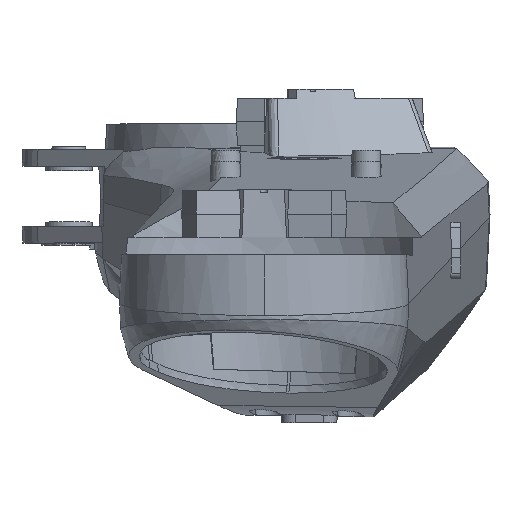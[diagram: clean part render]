
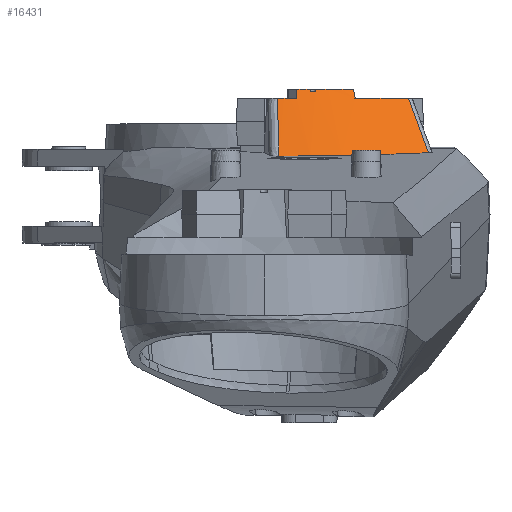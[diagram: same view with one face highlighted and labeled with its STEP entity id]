
A CAD part, top view. The second image highlights one B-rep face of the part: STEP entity #16431.
In plain terms, the highlighted conical face has half-angle 30 degrees and reference radius 286 mm.
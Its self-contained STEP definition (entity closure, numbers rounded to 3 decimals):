
#1574 = B_SPLINE_CURVE_WITH_KNOTS ( 'NONE', 3,
 ( #38031, #38022, #38021, #38033 ),
 .UNSPECIFIED., .F., .F.,
 ( 4, 4 ),
 ( 0.077, 0.08 ),
 .UNSPECIFIED. ) ;
#1595 = B_SPLINE_CURVE_WITH_KNOTS ( 'NONE', 3,
 ( #36675, #36679, #36684, #36685, #36686, #36687, #36688 ),
 .UNSPECIFIED., .F., .F.,
 ( 4, 3, 4 ),
 ( 0., 0.02, 0.071 ),
 .UNSPECIFIED. ) ;
#1772 = B_SPLINE_CURVE_WITH_KNOTS ( 'NONE', 3,
 ( #22125, #22118, #22107, #22127 ),
 .UNSPECIFIED., .F., .F.,
 ( 4, 4 ),
 ( 0.086, 0.097 ),
 .UNSPECIFIED. ) ;
#1823 =( BOUNDED_CURVE ( )  B_SPLINE_CURVE ( 3, ( #37212, #37197, #37205, #37216 ),
 .UNSPECIFIED., .F., .F. ) 
 B_SPLINE_CURVE_WITH_KNOTS ( ( 4, 4 ),
 ( 5.68, 6.232 ),
 .UNSPECIFIED. ) 
 CURVE ( )  GEOMETRIC_REPRESENTATION_ITEM ( )  RATIONAL_B_SPLINE_CURVE ( ( 1., 0.975, 0.975, 1. ) ) 
 REPRESENTATION_ITEM ( '' )  );
#1836 = B_SPLINE_CURVE_WITH_KNOTS ( 'NONE', 3,
 ( #37781, #37763, #37761, #37785 ),
 .UNSPECIFIED., .F., .F.,
 ( 4, 4 ),
 ( 0.08, 0.084 ),
 .UNSPECIFIED. ) ;
#1884 = B_SPLINE_CURVE_WITH_KNOTS ( 'NONE', 3,
 ( #22105, #22122, #22145, #22147, #22149, #22151, #22153, #22155, #22157, #22159 ),
 .UNSPECIFIED., .F., .F.,
 ( 4, 3, 3, 4 ),
 ( 0., 0.02, 0.06, 0.067 ),
 .UNSPECIFIED. ) ;
#5323 = CARTESIAN_POINT ( 'NONE',  ( 320., -80., 780. ) ) ;
#5324 = DIRECTION ( 'NONE',  ( 0., 1., 0. ) ) ;
#5325 = DIRECTION ( 'NONE',  ( -1., 0., 0. ) ) ;
#5672 = CARTESIAN_POINT ( 'NONE',  ( 320., -83., 780. ) ) ;
#5673 = DIRECTION ( 'NONE',  ( 0., -1., 0. ) ) ;
#5674 = DIRECTION ( 'NONE',  ( 1., 0., 0. ) ) ;
#5967 = DIRECTION ( 'NONE',  ( 1., 0., 0. ) ) ;
#5982 = DIRECTION ( 'NONE',  ( 0., -1., 0. ) ) ;
#6172 = CARTESIAN_POINT ( 'NONE',  ( 320., -90., 780. ) ) ;
#7281 = CIRCLE ( 'NONE', #14231, 280.226 ) ;
#7495 = CIRCLE ( 'NONE', #14257, 286. ) ;
#7522 = CIRCLE ( 'NONE', #14259, 286. ) ;
#7534 = LINE ( 'NONE', #37287, #7535 ) ;
#7535 = VECTOR ( 'NONE', #37288, 1000. ) ;
#8406 = EDGE_LOOP ( 'NONE', ( #29775, #29763, #29756, #29760, #29758, #29765, #29764, #29766, #29762, #30163, #30162, #30164 ) ) ;
#9360 = FACE_OUTER_BOUND ( 'NONE', #8406, .T. ) ;
#9367 = CONICAL_SURFACE ( 'NONE', #13885, 286., 0.524 ) ;
#10115 = CIRCLE ( 'NONE', #14197, 280.226 ) ;
#10146 = CIRCLE ( 'NONE', #14206, 281.959 ) ;
#13885 = AXIS2_PLACEMENT_3D ( 'NONE', #6172, #5982, #5967 ) ;
#14197 = AXIS2_PLACEMENT_3D ( 'NONE', #5323, #5324, #5325 ) ;
#14206 = AXIS2_PLACEMENT_3D ( 'NONE', #5672, #5673, #5674 ) ;
#14231 = AXIS2_PLACEMENT_3D ( 'NONE', #21748, #21750, #21752 ) ;
#14257 = AXIS2_PLACEMENT_3D ( 'NONE', #36871, #36873, #36875 ) ;
#14259 = AXIS2_PLACEMENT_3D ( 'NONE', #37015, #37017, #37019 ) ;
#16431 = ADVANCED_FACE ( 'NONE', ( #9360 ), #9367, .T. ) ;
#17231 = CARTESIAN_POINT ( 'NONE',  ( 335.688, -151.771, 1101.281 ) ) ;
#17296 = CARTESIAN_POINT ( 'NONE',  ( 474.174, -90., 1020.887 ) ) ;
#17298 = CARTESIAN_POINT ( 'NONE',  ( 354.605, -80., 1058.082 ) ) ;
#17299 = CARTESIAN_POINT ( 'NONE',  ( 369.513, -80., 1055.818 ) ) ;
#17302 = CARTESIAN_POINT ( 'NONE',  ( 417.3, -90., 1048.94 ) ) ;
#17306 = CARTESIAN_POINT ( 'NONE',  ( 354.857, -90., 1063.868 ) ) ;
#17308 = CARTESIAN_POINT ( 'NONE',  ( 415.335, -80., 1043.511 ) ) ;
#17351 = CARTESIAN_POINT ( 'NONE',  ( 374.513, -83., 1056.639 ) ) ;
#17437 = CARTESIAN_POINT ( 'NONE',  ( 495.354, -148.077, 1047.116 ) ) ;
#18176 = EDGE_CURVE ( 'NONE', #28518, #28307, #1823, .T. ) ;
#18210 = EDGE_CURVE ( 'NONE', #28376, #28377, #10115, .T. ) ;
#18249 = EDGE_CURVE ( 'NONE', #28429, #28895, #10146, .T. ) ;
#18484 = EDGE_CURVE ( 'NONE', #29121, #28386, #7281, .T. ) ;
#18519 = EDGE_CURVE ( 'NONE', #28376, #28384, #1772, .T. ) ;
#18522 = EDGE_CURVE ( 'NONE', #28518, #28374, #1884, .T. ) ;
#18564 = EDGE_CURVE ( 'NONE', #29472, #28307, #1595, .T. ) ;
#18665 = EDGE_CURVE ( 'NONE', #28377, #28895, #1574, .T. ) ;
#18725 = EDGE_CURVE ( 'NONE', #28374, #28380, #7495, .T. ) ;
#18740 = EDGE_CURVE ( 'NONE', #28384, #29472, #7522, .T. ) ;
#18755 = EDGE_CURVE ( 'NONE', #28386, #28380, #7534, .T. ) ;
#18785 = EDGE_CURVE ( 'NONE', #28429, #29121, #1836, .T. ) ;
#21748 = CARTESIAN_POINT ( 'NONE',  ( 320., -80., 780. ) ) ;
#21750 = DIRECTION ( 'NONE',  ( 0., 1., 0. ) ) ;
#21752 = DIRECTION ( 'NONE',  ( -1., 0., 0. ) ) ;
#22105 = CARTESIAN_POINT ( 'NONE',  ( 495.354, -148.077, 1047.116 ) ) ;
#22107 = CARTESIAN_POINT ( 'NONE',  ( 354.773, -86.667, 1061.939 ) ) ;
#22118 = CARTESIAN_POINT ( 'NONE',  ( 354.689, -83.333, 1060.01 ) ) ;
#22122 = CARTESIAN_POINT ( 'NONE',  ( 493.253, -142.311, 1044.513 ) ) ;
#22125 = CARTESIAN_POINT ( 'NONE',  ( 354.605, -80., 1058.082 ) ) ;
#22127 = CARTESIAN_POINT ( 'NONE',  ( 354.857, -90., 1063.868 ) ) ;
#22145 = CARTESIAN_POINT ( 'NONE',  ( 491.151, -136.544, 1041.909 ) ) ;
#22147 = CARTESIAN_POINT ( 'NONE',  ( 489.049, -130.778, 1039.306 ) ) ;
#22149 = CARTESIAN_POINT ( 'NONE',  ( 484.845, -119.246, 1034.099 ) ) ;
#22151 = CARTESIAN_POINT ( 'NONE',  ( 480.639, -107.715, 1028.891 ) ) ;
#22153 = CARTESIAN_POINT ( 'NONE',  ( 476.431, -96.185, 1023.682 ) ) ;
#22155 = CARTESIAN_POINT ( 'NONE',  ( 475.679, -94.124, 1022.75 ) ) ;
#22157 = CARTESIAN_POINT ( 'NONE',  ( 474.926, -92.062, 1021.819 ) ) ;
#22159 = CARTESIAN_POINT ( 'NONE',  ( 474.174, -90., 1020.887 ) ) ;
#28307 = VERTEX_POINT ( 'NONE', #17231 ) ;
#28374 = VERTEX_POINT ( 'NONE', #17296 ) ;
#28376 = VERTEX_POINT ( 'NONE', #17298 ) ;
#28377 = VERTEX_POINT ( 'NONE', #17299 ) ;
#28380 = VERTEX_POINT ( 'NONE', #17302 ) ;
#28384 = VERTEX_POINT ( 'NONE', #17306 ) ;
#28386 = VERTEX_POINT ( 'NONE', #17308 ) ;
#28429 = VERTEX_POINT ( 'NONE', #17351 ) ;
#28518 = VERTEX_POINT ( 'NONE', #17437 ) ;
#28895 = VERTEX_POINT ( 'NONE', #38892 ) ;
#29121 = VERTEX_POINT ( 'NONE', #38997 ) ;
#29472 = VERTEX_POINT ( 'NONE', #39159 ) ;
#29756 = ORIENTED_EDGE ( 'NONE', *, *, #18665, .F. ) ;
#29758 = ORIENTED_EDGE ( 'NONE', *, *, #18519, .T. ) ;
#29760 = ORIENTED_EDGE ( 'NONE', *, *, #18210, .F. ) ;
#29762 = ORIENTED_EDGE ( 'NONE', *, *, #18522, .T. ) ;
#29763 = ORIENTED_EDGE ( 'NONE', *, *, #18249, .T. ) ;
#29764 = ORIENTED_EDGE ( 'NONE', *, *, #18564, .T. ) ;
#29765 = ORIENTED_EDGE ( 'NONE', *, *, #18740, .T. ) ;
#29766 = ORIENTED_EDGE ( 'NONE', *, *, #18176, .F. ) ;
#29775 = ORIENTED_EDGE ( 'NONE', *, *, #18785, .F. ) ;
#30162 = ORIENTED_EDGE ( 'NONE', *, *, #18755, .F. ) ;
#30163 = ORIENTED_EDGE ( 'NONE', *, *, #18725, .T. ) ;
#30164 = ORIENTED_EDGE ( 'NONE', *, *, #18484, .F. ) ;
#36675 = CARTESIAN_POINT ( 'NONE',  ( 334.154, -90., 1065.65 ) ) ;
#36679 = CARTESIAN_POINT ( 'NONE',  ( 334.297, -95.773, 1068.98 ) ) ;
#36684 = CARTESIAN_POINT ( 'NONE',  ( 334.44, -101.547, 1072.31 ) ) ;
#36685 = CARTESIAN_POINT ( 'NONE',  ( 334.584, -107.32, 1075.64 ) ) ;
#36686 = CARTESIAN_POINT ( 'NONE',  ( 334.952, -122.137, 1084.187 ) ) ;
#36687 = CARTESIAN_POINT ( 'NONE',  ( 335.32, -136.954, 1092.734 ) ) ;
#36688 = CARTESIAN_POINT ( 'NONE',  ( 335.688, -151.771, 1101.281 ) ) ;
#36871 = CARTESIAN_POINT ( 'NONE',  ( 320., -90., 780. ) ) ;
#36873 = DIRECTION ( 'NONE',  ( 0., -1., 0. ) ) ;
#36875 = DIRECTION ( 'NONE',  ( 1., 0., 0. ) ) ;
#37015 = CARTESIAN_POINT ( 'NONE',  ( 320., -90., 780. ) ) ;
#37017 = DIRECTION ( 'NONE',  ( 0., -1., 0. ) ) ;
#37019 = DIRECTION ( 'NONE',  ( 1., 0., 0. ) ) ;
#37197 = CARTESIAN_POINT ( 'NONE',  ( 447.866, -150.308, 1079.831 ) ) ;
#37205 = CARTESIAN_POINT ( 'NONE',  ( 393.266, -151.571, 1098.354 ) ) ;
#37212 = CARTESIAN_POINT ( 'NONE',  ( 495.354, -148.077, 1047.116 ) ) ;
#37216 = CARTESIAN_POINT ( 'NONE',  ( 335.688, -151.771, 1101.281 ) ) ;
#37287 = CARTESIAN_POINT ( 'NONE',  ( 320., 405.367, 780. ) ) ;
#37288 = DIRECTION ( 'NONE',  ( 0.17, -0.866, 0.47 ) ) ;
#37761 = CARTESIAN_POINT ( 'NONE',  ( 374.513, -81., 1055.462 ) ) ;
#37763 = CARTESIAN_POINT ( 'NONE',  ( 374.513, -82., 1056.05 ) ) ;
#37781 = CARTESIAN_POINT ( 'NONE',  ( 374.513, -83., 1056.639 ) ) ;
#37785 = CARTESIAN_POINT ( 'NONE',  ( 374.513, -80., 1054.873 ) ) ;
#38021 = CARTESIAN_POINT ( 'NONE',  ( 369.513, -82., 1056.991 ) ) ;
#38022 = CARTESIAN_POINT ( 'NONE',  ( 369.513, -81., 1056.404 ) ) ;
#38031 = CARTESIAN_POINT ( 'NONE',  ( 369.513, -80., 1055.818 ) ) ;
#38033 = CARTESIAN_POINT ( 'NONE',  ( 369.513, -83., 1057.577 ) ) ;
#38892 = CARTESIAN_POINT ( 'NONE',  ( 369.513, -83., 1057.577 ) ) ;
#38997 = CARTESIAN_POINT ( 'NONE',  ( 374.513, -80., 1054.873 ) ) ;
#39159 = CARTESIAN_POINT ( 'NONE',  ( 334.154, -90., 1065.65 ) ) ;
